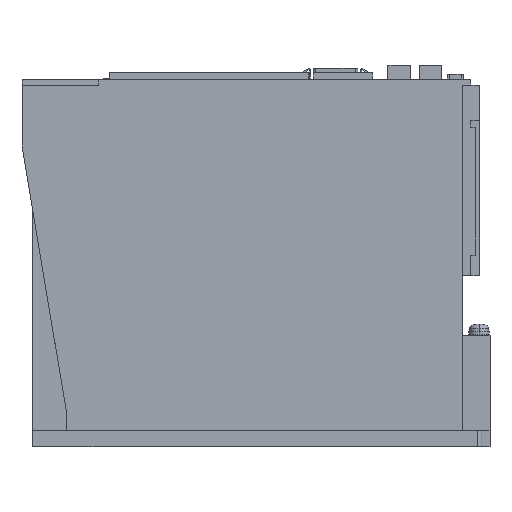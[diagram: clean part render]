
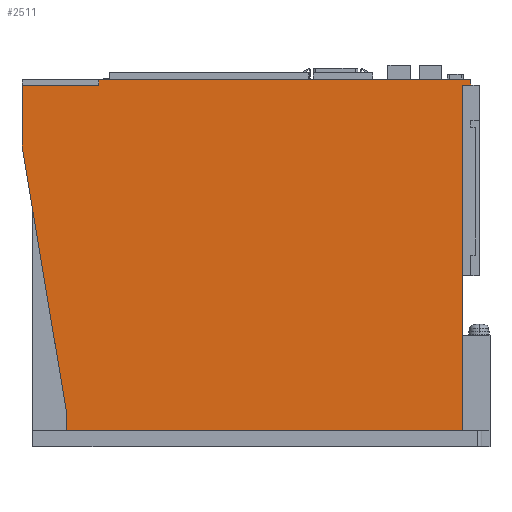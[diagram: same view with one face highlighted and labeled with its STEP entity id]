
A CAD part, left-side view. The second image highlights one B-rep face of the part: STEP entity #2511.
In plain terms, the highlighted planar face has unit normal (-1, 0, 0).
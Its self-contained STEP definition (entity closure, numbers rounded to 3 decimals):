
#1067=DIRECTION('',(0.,-1.,0.));
#1068=VECTOR('',#1067,28.2);
#1069=CARTESIAN_POINT('',(-20.,83.,126.9));
#1070=LINE('',#1069,#1068);
#1074=DIRECTION('',(0.,0.,-1.));
#1075=VECTOR('',#1074,2.1);
#1076=CARTESIAN_POINT('',(-20.,54.8,129.));
#1077=LINE('',#1076,#1075);
#1081=DIRECTION('',(0.,-1.,0.));
#1082=VECTOR('',#1081,136.8);
#1083=CARTESIAN_POINT('',(-20.,54.8,129.));
#1084=LINE('',#1083,#1082);
#1088=DIRECTION('',(0.,0.,1.));
#1089=VECTOR('',#1088,6.);
#1090=CARTESIAN_POINT('',(-20.,66.5,0.));
#1091=LINE('',#1090,#1089);
#1095=DIRECTION('',(0.,0.,-1.));
#1096=VECTOR('',#1095,22.3);
#1097=CARTESIAN_POINT('',(-20.,83.,126.9));
#1098=LINE('',#1097,#1096);
#1130=DIRECTION('',(0.,-0.165,-0.986));
#1131=VECTOR('',#1130,99.971);
#1132=CARTESIAN_POINT('',(-20.,83.,104.6));
#1133=LINE('',#1132,#1131);
#1193=DIRECTION('',(0.,-1.,0.));
#1194=VECTOR('',#1193,145.5);
#1195=CARTESIAN_POINT('',(-20.,66.5,0.));
#1196=LINE('',#1195,#1194);
#1284=DIRECTION('',(0.,0.,1.));
#1285=VECTOR('',#1284,127.);
#1286=CARTESIAN_POINT('',(-20.,-79.,0.));
#1287=LINE('',#1286,#1285);
#1291=DIRECTION('',(0.,-1.,0.));
#1292=VECTOR('',#1291,3.);
#1293=CARTESIAN_POINT('',(-20.,-79.,127.));
#1294=LINE('',#1293,#1292);
#1417=DIRECTION('',(0.,0.,-1.));
#1418=VECTOR('',#1417,2.);
#1419=CARTESIAN_POINT('',(-20.,-82.,129.));
#1420=LINE('',#1419,#1418);
#2159=CARTESIAN_POINT('',(-20.,-79.,0.));
#2161=VERTEX_POINT('',#2159);
#2169=CARTESIAN_POINT('',(-20.,66.5,0.));
#2170=VERTEX_POINT('',#2169);
#2171=CARTESIAN_POINT('',(-20.,66.5,6.));
#2172=VERTEX_POINT('',#2171);
#2175=CARTESIAN_POINT('',(-20.,83.,104.6));
#2177=VERTEX_POINT('',#2175);
#2209=CARTESIAN_POINT('',(-20.,54.8,129.));
#2211=VERTEX_POINT('',#2209);
#2213=CARTESIAN_POINT('',(-20.,83.,126.9));
#2214=CARTESIAN_POINT('',(-20.,54.8,126.9));
#2215=VERTEX_POINT('',#2213);
#2216=VERTEX_POINT('',#2214);
#2355=CARTESIAN_POINT('',(-20.,-82.,129.));
#2356=CARTESIAN_POINT('',(-20.,-82.,127.));
#2357=VERTEX_POINT('',#2355);
#2358=VERTEX_POINT('',#2356);
#2359=CARTESIAN_POINT('',(-20.,-79.,127.));
#2361=VERTEX_POINT('',#2359);
#2486=CARTESIAN_POINT('',(-20.,79.,0.));
#2487=DIRECTION('',(-1.,0.,0.));
#2488=DIRECTION('',(0.,-1.,0.));
#2489=AXIS2_PLACEMENT_3D('',#2486,#2487,#2488);
#2490=PLANE('',#2489);
#2492=ORIENTED_EDGE('',*,*,#2491,.T.);
#2493=ORIENTED_EDGE('',*,*,#2469,.F.);
#2494=ORIENTED_EDGE('',*,*,#2408,.T.);
#2496=ORIENTED_EDGE('',*,*,#2495,.T.);
#2498=ORIENTED_EDGE('',*,*,#2497,.F.);
#2500=ORIENTED_EDGE('',*,*,#2499,.F.);
#2502=ORIENTED_EDGE('',*,*,#2501,.F.);
#2504=ORIENTED_EDGE('',*,*,#2503,.T.);
#2506=ORIENTED_EDGE('',*,*,#2505,.F.);
#2508=ORIENTED_EDGE('',*,*,#2507,.F.);
#2509=EDGE_LOOP('',(#2492,#2493,#2494,#2496,#2498,#2500,#2502,#2504,#2506,
#2508));
#2510=FACE_OUTER_BOUND('',#2509,.F.);
#2408=EDGE_CURVE('',#2211,#2357,#1084,.T.);
#2469=EDGE_CURVE('',#2211,#2216,#1077,.T.);
#2491=EDGE_CURVE('',#2215,#2216,#1070,.T.);
#2495=EDGE_CURVE('',#2357,#2358,#1420,.T.);
#2497=EDGE_CURVE('',#2361,#2358,#1294,.T.);
#2499=EDGE_CURVE('',#2161,#2361,#1287,.T.);
#2501=EDGE_CURVE('',#2170,#2161,#1196,.T.);
#2503=EDGE_CURVE('',#2170,#2172,#1091,.T.);
#2505=EDGE_CURVE('',#2177,#2172,#1133,.T.);
#2507=EDGE_CURVE('',#2215,#2177,#1098,.T.);
#2511=ADVANCED_FACE('',(#2510),#2490,.T.);
